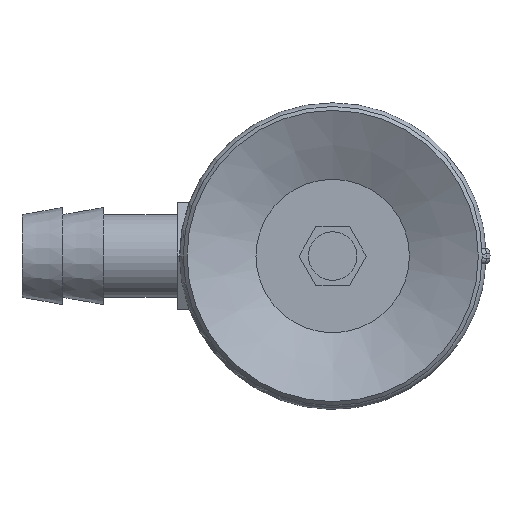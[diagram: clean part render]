
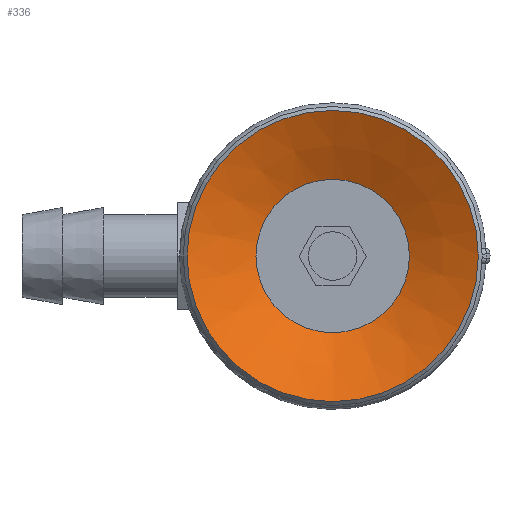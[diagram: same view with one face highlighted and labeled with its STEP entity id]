
A CAD part, front view. The second image highlights one B-rep face of the part: STEP entity #336.
In plain terms, the highlighted conical face has half-angle 64 degrees and reference radius 3.95 mm.
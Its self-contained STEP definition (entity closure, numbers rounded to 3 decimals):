
#336=ADVANCED_FACE('',(#532,#533),#534,.F.);
#532=FACE_BOUND('',#795,.T.);
#533=FACE_OUTER_BOUND('',#796,.T.);
#534=CONICAL_SURFACE('',#797,3.95,1.117);
#795=EDGE_LOOP('',(#1434));
#796=EDGE_LOOP('',(#1435));
#797=AXIS2_PLACEMENT_3D('',#1436,#1437,#1438);
#1434=ORIENTED_EDGE('',*,*,#1758,.F.);
#1435=ORIENTED_EDGE('',*,*,#1759,.T.);
#1436=CARTESIAN_POINT('',(0.0,-29.404,-47.168));
#1437=DIRECTION('',(-0.0,0.,1.0));
#1438=DIRECTION('',(0.0,-1.0,0.));
#1758=EDGE_CURVE('',#2039,#2039,#2040,.T.);
#1759=EDGE_CURVE('',#2041,#2041,#2042,.T.);
#2039=VERTEX_POINT('',#2579);
#2040=CIRCLE('',#2580,3.95);
#2041=VERTEX_POINT('',#2581);
#2042=CIRCLE('',#2582,7.5);
#2579=CARTESIAN_POINT('',(0.0,-33.354,-47.168));
#2580=AXIS2_PLACEMENT_3D('',#2894,#2895,#2896);
#2581=CARTESIAN_POINT('',(0.0,-36.904,-45.437));
#2582=AXIS2_PLACEMENT_3D('',#2897,#2898,#2899);
#2894=CARTESIAN_POINT('',(0.0,-29.404,-47.168));
#2895=DIRECTION('',(0.0,0.,1.0));
#2896=DIRECTION('',(0.0,-1.0,0.));
#2897=CARTESIAN_POINT('',(0.0,-29.404,-45.437));
#2898=DIRECTION('',(0.0,0.,1.0));
#2899=DIRECTION('',(0.0,-1.0,0.));
